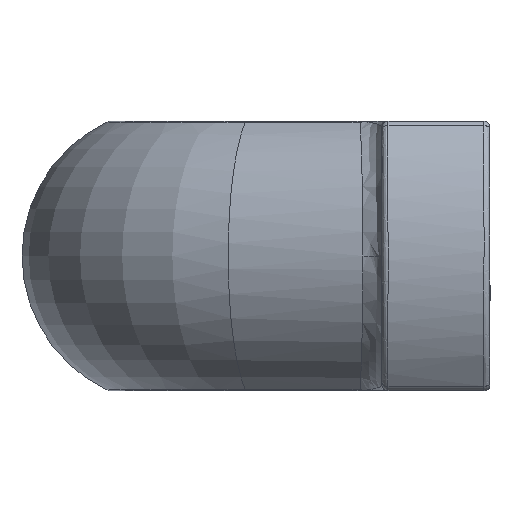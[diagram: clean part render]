
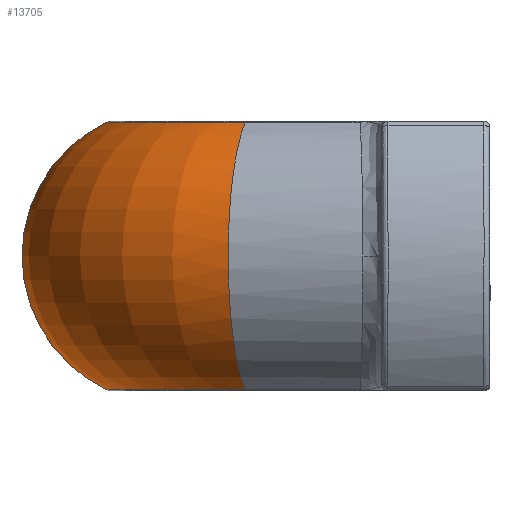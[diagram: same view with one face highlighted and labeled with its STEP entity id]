
A CAD part, left-side view. The second image highlights one B-rep face of the part: STEP entity #13705.
In plain terms, the highlighted toroidal (fillet/blend) face has major radius 9.168 mm and minor radius 12.332 mm.
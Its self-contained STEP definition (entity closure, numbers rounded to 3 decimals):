
#252 = EDGE_LOOP ( 'NONE', ( #12742, #15515, #5930, #4937, #16263 ) ) ;
#408 = CIRCLE ( 'NONE', #8428, 12.332 ) ;
#699 = CARTESIAN_POINT ( 'NONE',  ( -44.204, -10., -11.155 ) ) ;
#944 = TOROIDAL_SURFACE ( 'NONE', #12792, 9.168, 12.332 ) ;
#1535 = DIRECTION ( 'NONE',  ( -0.98, 0.201, 0. ) ) ;
#1542 = CARTESIAN_POINT ( 'NONE',  ( -44.204, -0.832, 0. ) ) ;
#1841 = DIRECTION ( 'NONE',  ( 0., 0., -1. ) ) ;
#2084 = VERTEX_POINT ( 'NONE', #16427 ) ;
#2200 = EDGE_CURVE ( 'NONE', #8679, #2084, #7935, .T. ) ;
#2319 = DIRECTION ( 'NONE',  ( -1., 0., 0. ) ) ;
#2744 = CARTESIAN_POINT ( 'NONE',  ( -44.204, -0.832, 0. ) ) ;
#3142 = DIRECTION ( 'NONE',  ( 0., 1., 0. ) ) ;
#3757 = CARTESIAN_POINT ( 'NONE',  ( -58.336, -7.102, -11.155 ) ) ;
#3890 = DIRECTION ( 'NONE',  ( -1., 0., 0. ) ) ;
#3964 = EDGE_CURVE ( 'NONE', #15312, #8080, #9669, .T. ) ;
#4327 = DIRECTION ( 'NONE',  ( 0., 1., 0. ) ) ;
#4937 = ORIENTED_EDGE ( 'NONE', *, *, #6987, .T. ) ;
#5178 = FACE_OUTER_BOUND ( 'NONE', #252, .T. ) ;
#5325 = AXIS2_PLACEMENT_3D ( 'NONE', #2744, #13951, #4327 ) ;
#5415 = EDGE_CURVE ( 'NONE', #13283, #15312, #408, .T. ) ;
#5930 = ORIENTED_EDGE ( 'NONE', *, *, #2200, .T. ) ;
#6987 = EDGE_CURVE ( 'NONE', #2084, #8080, #9247, .T. ) ;
#7935 = CIRCLE ( 'NONE', #5325, 12.332 ) ;
#8080 = VERTEX_POINT ( 'NONE', #12841 ) ;
#8428 = AXIS2_PLACEMENT_3D ( 'NONE', #20777, #11141, #1535 ) ;
#8679 = VERTEX_POINT ( 'NONE', #18586 ) ;
#9247 = CIRCLE ( 'NONE', #15887, 12.332 ) ;
#9669 = CIRCLE ( 'NONE', #12594, 14.426 ) ;
#10370 = CARTESIAN_POINT ( 'NONE',  ( -58.336, -7.102, 11.155 ) ) ;
#10838 = EDGE_CURVE ( 'NONE', #13283, #8679, #20304, .T. ) ;
#11141 = DIRECTION ( 'NONE',  ( -0.201, -0.98, 0. ) ) ;
#11422 = CARTESIAN_POINT ( 'NONE',  ( -44.204, -10., 11.155 ) ) ;
#11891 = CARTESIAN_POINT ( 'NONE',  ( -44.204, -10., 0. ) ) ;
#11892 = DIRECTION ( 'NONE',  ( 0., 0., -1. ) ) ;
#12594 = AXIS2_PLACEMENT_3D ( 'NONE', #699, #11892, #2319 ) ;
#12742 = ORIENTED_EDGE ( 'NONE', *, *, #5415, .F. ) ;
#12758 = DIRECTION ( 'NONE',  ( -1., 0., 0. ) ) ;
#12792 = AXIS2_PLACEMENT_3D ( 'NONE', #11891, #19921, #3890 ) ;
#12841 = CARTESIAN_POINT ( 'NONE',  ( -44.204, 4.426, -11.155 ) ) ;
#13057 = DIRECTION ( 'NONE',  ( -1., 0., 0. ) ) ;
#13283 = VERTEX_POINT ( 'NONE', #10370 ) ;
#13705 = ADVANCED_FACE ( 'NONE', ( #5178 ), #944, .T. ) ;
#13951 = DIRECTION ( 'NONE',  ( -1., 0., 0. ) ) ;
#14134 = AXIS2_PLACEMENT_3D ( 'NONE', #11422, #1841, #13057 ) ;
#15312 = VERTEX_POINT ( 'NONE', #3757 ) ;
#15515 = ORIENTED_EDGE ( 'NONE', *, *, #10838, .T. ) ;
#15887 = AXIS2_PLACEMENT_3D ( 'NONE', #1542, #12758, #3142 ) ;
#16263 = ORIENTED_EDGE ( 'NONE', *, *, #3964, .F. ) ;
#16427 = CARTESIAN_POINT ( 'NONE',  ( -44.204, 11.5, 0. ) ) ;
#18586 = CARTESIAN_POINT ( 'NONE',  ( -44.204, 4.426, 11.155 ) ) ;
#19921 = DIRECTION ( 'NONE',  ( 0., 0., -1. ) ) ;
#20304 = CIRCLE ( 'NONE', #14134, 14.426 ) ;
#20777 = CARTESIAN_POINT ( 'NONE',  ( -53.185, -8.158, 0. ) ) ;
